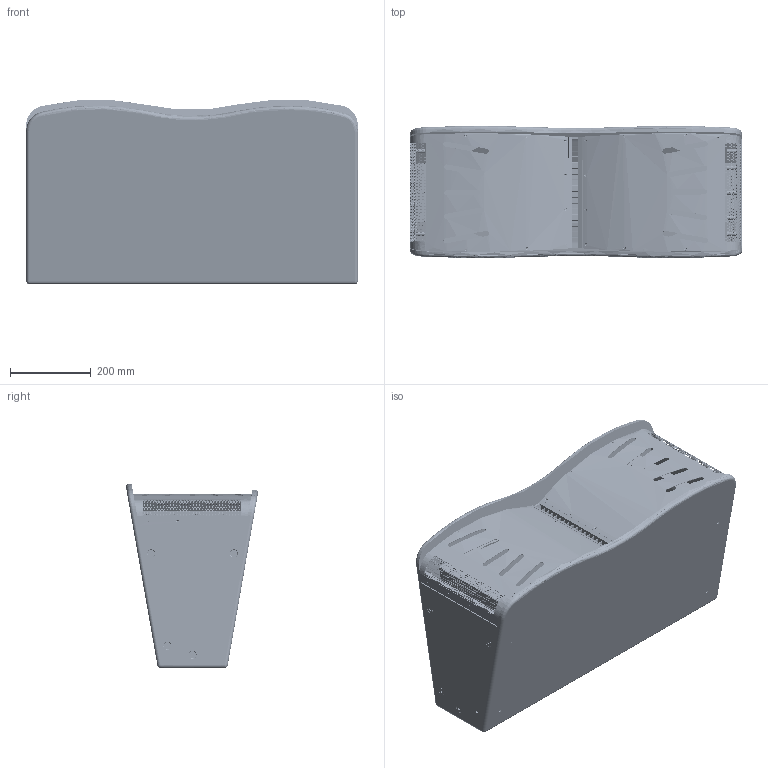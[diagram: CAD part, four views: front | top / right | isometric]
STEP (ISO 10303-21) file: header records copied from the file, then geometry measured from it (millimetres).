
FILE_DESCRIPTION (( 'STEP AP214' ), '1' );
FILE_NAME ('CCA10i-R0.1.STEP', '2024-12-20T10:05:34', ( '' ), ( '' ), 'SwSTEP 2.0', 'SolidWorks 2024', '' );
FILE_SCHEMA (( 'AUTOMOTIVE_DESIGN' ));
Length unit declared in the file: metre
Products named in the file (1): CCA10i-R0.1
Bounding box: 822.12 x 326.73 x 456.7 mm (x, y, z)
Surface area: 3424215.4 mm2 (no closed solid volume)
Topology: 0 solids, 138 shells, 8889 faces, 25231 edges, 16522 vertices
Faces by surface type: bspline 3287, plane 3120, cylinder 1570, cone 808, torus 95, sphere 9
Entity records: 478012 total; most frequent: CARTESIAN_POINT 268190, ORIENTED_EDGE 50213, DIRECTION 31975, EDGE_CURVE 25177, VERTEX_POINT 16522, AXIS2_PLACEMENT_3D 10813, EDGE_LOOP 10539, VECTOR 10349
